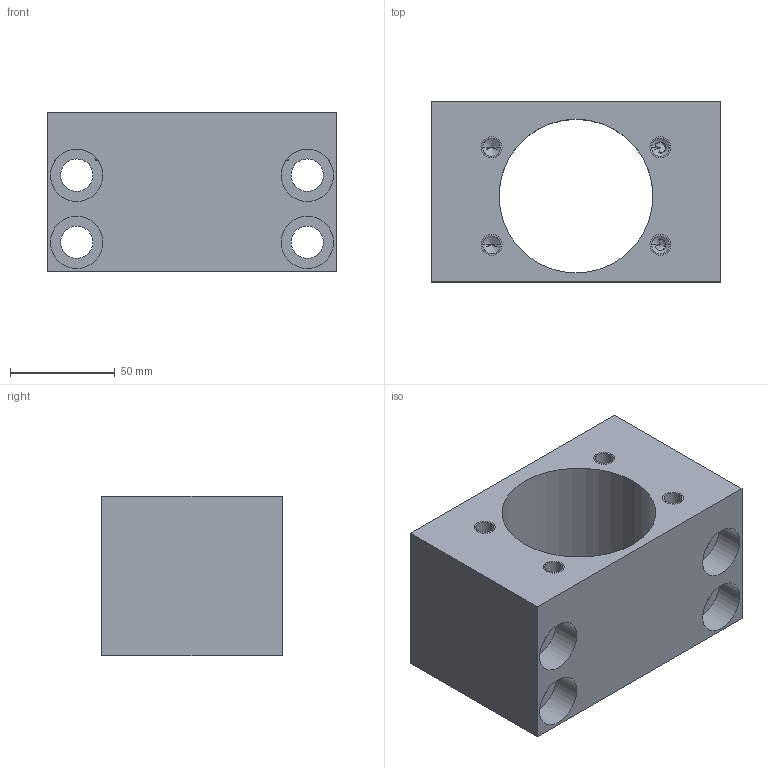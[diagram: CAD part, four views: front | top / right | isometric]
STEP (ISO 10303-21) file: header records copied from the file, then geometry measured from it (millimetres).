
FILE_DESCRIPTION((''),'2;1');
FILE_NAME('NH40D','2020-04-10T',('Administrator'),(''),'PRO/ENGINEER BY PARAMETRIC TECHNOLOGY CORPORATION, 2010280','PRO/ENGINEER BY PARAMETRIC TECHNOLOGY CORPORATION, 2010280','');
FILE_SCHEMA(('CONFIG_CONTROL_DESIGN'));
Length unit declared in the file: millimetre
Products named in the file (1): NH40D
Bounding box: 138 x 86 x 76 mm (x, y, z)
Volume: 492863.8 mm3; surface area: 89050.9 mm2
Topology: 1 solids, 5 shells, 68 faces, 192 edges, 122 vertices
Faces by surface type: cylinder 36, plane 18, cone 14
Entity records: 2367 total; most frequent: CARTESIAN_POINT 533, DIRECTION 402, ORIENTED_EDGE 344, EDGE_CURVE 180, AXIS2_PLACEMENT_3D 167, VERTEX_POINT 122, CIRCLE 98, EDGE_LOOP 90
